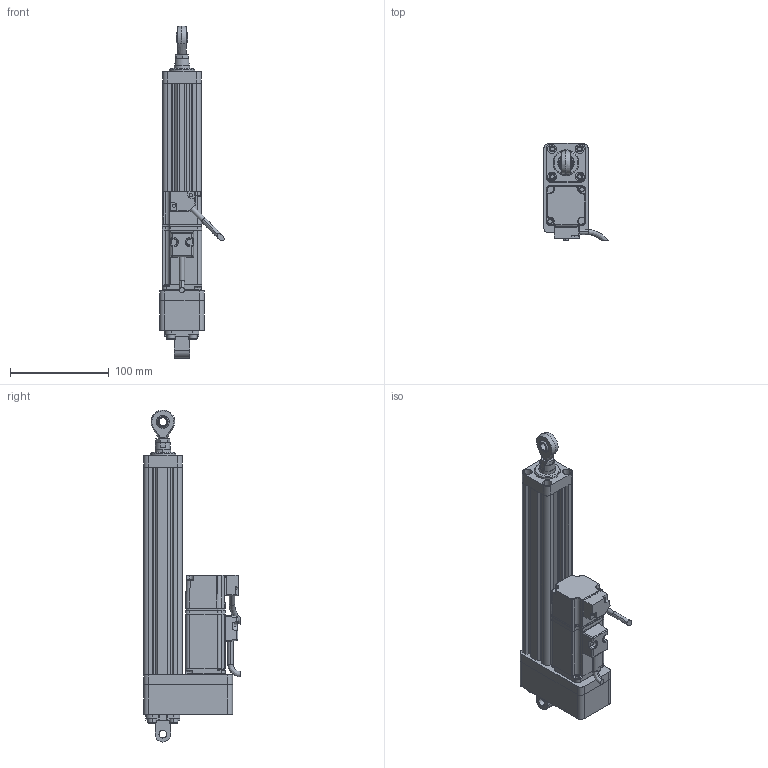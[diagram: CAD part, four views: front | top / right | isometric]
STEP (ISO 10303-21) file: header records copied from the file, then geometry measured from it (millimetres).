
FILE_DESCRIPTION (( 'STEP AP214' ), '1' );
FILE_NAME ('039-S150-D02-B-M5-C4-2.STEP', '2021-03-02T04:57:16', ( '' ), ( '' ), 'SwSTEP 2.0', 'SolidWorks 2018', '' );
FILE_SCHEMA (( 'AUTOMOTIVE_DESIGN' ));
Length unit declared in the file: millimetre
Products named in the file (10): CMC039-HXT; BNC51-SA8T_K-R; CMC039-FL; CMC039-DT; GB／T6174-2000六角薄螺母无倒角M8; CMC039-GT; 039-S150-D02-B-M5-C4-2; CMC039-LJB; F-ACE20CA_ACE_; ECMA-CX0401ES-40框號系列機種-100W低慣量系列
Assembly tree (9 placements, depth 2):
  039-S150-D02-B-M5-C4-2
    CMC039-GT
    CMC039-LJB
    CMC039-FL
    CMC039-DT
    ECMA-CX0401ES-40框號系列機種-100W低慣量系列
    CMC039-HXT
    F-ACE20CA_ACE_
    GB／T6174-2000六角薄螺母无倒角M8
    BNC51-SA8T_K-R
Bounding box: 65.33 x 97.89 x 336 mm (x, y, z)
Volume: 470018.9 mm3; surface area: 152480.9 mm2
Topology: 10 solids, 18 shells, 807 faces, 2112 edges, 1324 vertices
Faces by surface type: cylinder 327, plane 315, bspline 102, cone 63
Entity records: 32316 total; most frequent: CARTESIAN_POINT 12833, ORIENTED_EDGE 4138, DIRECTION 3501, EDGE_CURVE 2069, VERTEX_POINT 1324, AXIS2_PLACEMENT_3D 1253, VECTOR 995, LINE 995
